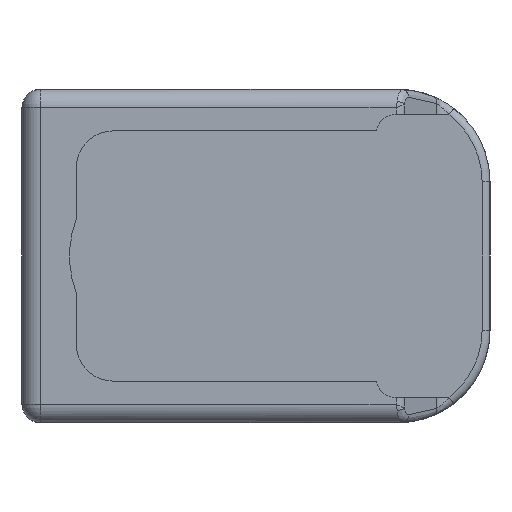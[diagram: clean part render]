
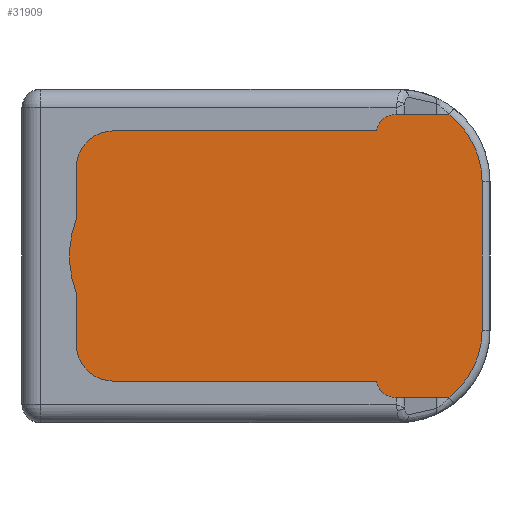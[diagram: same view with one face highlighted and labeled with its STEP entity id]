
A CAD part, left-side view. The second image highlights one B-rep face of the part: STEP entity #31909.
In plain terms, the highlighted planar face has unit normal (-1, 0, 0).
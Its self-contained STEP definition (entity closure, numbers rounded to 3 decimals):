
#430 = DIRECTION ( 'NONE',  ( -1., 0., 0. ) ) ;
#686 = CARTESIAN_POINT ( 'NONE',  ( -329.6, -59.648, 30.5 ) ) ;
#1399 = EDGE_CURVE ( 'NONE', #67137, #32455, #17705, .T. ) ;
#2488 = CARTESIAN_POINT ( 'NONE',  ( -329.6, 20.8, 7.901 ) ) ;
#3057 = LINE ( 'NONE', #36744, #74086 ) ;
#4092 = EDGE_CURVE ( 'NONE', #47760, #67137, #26237, .T. ) ;
#4124 = VERTEX_POINT ( 'NONE', #72978 ) ;
#4677 = VECTOR ( 'NONE', #46253, 1000. ) ;
#4864 = DIRECTION ( 'NONE',  ( 0., 0., 1. ) ) ;
#5939 = EDGE_LOOP ( 'NONE', ( #35541, #37194, #59270, #45295, #56395, #15604, #26791, #78368, #46803, #17629, #66657, #72200 ) ) ;
#8618 = CIRCLE ( 'NONE', #58756, 22.25 ) ;
#10387 = AXIS2_PLACEMENT_3D ( 'NONE', #27511, #14393, #41003 ) ;
#11647 = DIRECTION ( 'NONE',  ( 1., 0., 0. ) ) ;
#12157 = DIRECTION ( 'NONE',  ( 0., 0., 1. ) ) ;
#13181 = DIRECTION ( 'NONE',  ( 1., 0., 0. ) ) ;
#13382 = VERTEX_POINT ( 'NONE', #19253 ) ;
#14393 = DIRECTION ( 'NONE',  ( -1., 0., 0. ) ) ;
#14477 = DIRECTION ( 'NONE',  ( 0., 0., -1. ) ) ;
#14497 = CARTESIAN_POINT ( 'NONE',  ( -329.6, -48.5, -16. ) ) ;
#15604 = ORIENTED_EDGE ( 'NONE', *, *, #4092, .T. ) ;
#16610 = AXIS2_PLACEMENT_3D ( 'NONE', #46311, #430, #20575 ) ;
#16650 = DIRECTION ( 'NONE',  ( 0., 0., 1. ) ) ;
#17629 = ORIENTED_EDGE ( 'NONE', *, *, #46980, .T. ) ;
#17705 = CIRCLE ( 'NONE', #66526, 18.3 ) ;
#17840 = CARTESIAN_POINT ( 'NONE',  ( -329.6, 20.8, 30.5 ) ) ;
#17949 = CIRCLE ( 'NONE', #27780, 9.75 ) ;
#18346 = DIRECTION ( 'NONE',  ( 0., 0., -1. ) ) ;
#19253 = CARTESIAN_POINT ( 'NONE',  ( -329.6, 11.05, -30.5 ) ) ;
#20143 = CIRCLE ( 'NONE', #10387, 9.75 ) ;
#20575 = DIRECTION ( 'NONE',  ( 0., 0., -1. ) ) ;
#20595 = DIRECTION ( 'NONE',  ( -1., 0., 0. ) ) ;
#22272 = DIRECTION ( 'NONE',  ( 0., 0., -1. ) ) ;
#25347 = PLANE ( 'NONE',  #45332 ) ;
#26237 = LINE ( 'NONE', #53224, #4677 ) ;
#26791 = ORIENTED_EDGE ( 'NONE', *, *, #1399, .T. ) ;
#27511 = CARTESIAN_POINT ( 'NONE',  ( -329.6, 11.05, 20.75 ) ) ;
#27780 = AXIS2_PLACEMENT_3D ( 'NONE', #64676, #13181, #4864 ) ;
#27981 = VECTOR ( 'NONE', #14477, 1000. ) ;
#28457 = LINE ( 'NONE', #41502, #27981 ) ;
#29920 = VERTEX_POINT ( 'NONE', #57635 ) ;
#31909 = ADVANCED_FACE ( 'NONE', ( #77393 ), #25347, .T. ) ;
#32129 = CARTESIAN_POINT ( 'NONE',  ( -329.6, 0., 0. ) ) ;
#32455 = VERTEX_POINT ( 'NONE', #55487 ) ;
#32653 = LINE ( 'NONE', #79852, #37932 ) ;
#34987 = EDGE_CURVE ( 'NONE', #47248, #42632, #40094, .T. ) ;
#35541 = ORIENTED_EDGE ( 'NONE', *, *, #34987, .F. ) ;
#36364 = CARTESIAN_POINT ( 'NONE',  ( -329.6, 11.05, 30.5 ) ) ;
#36731 = CARTESIAN_POINT ( 'NONE',  ( -329.6, -59.648, -30.5 ) ) ;
#36744 = CARTESIAN_POINT ( 'NONE',  ( -329.6, 20.8, -30.5 ) ) ;
#37194 = ORIENTED_EDGE ( 'NONE', *, *, #57709, .F. ) ;
#37932 = VECTOR ( 'NONE', #52230, 1000. ) ;
#39055 = CARTESIAN_POINT ( 'NONE',  ( -329.6, -59.648, -30.512 ) ) ;
#40094 = LINE ( 'NONE', #85961, #56885 ) ;
#41003 = DIRECTION ( 'NONE',  ( 0., 0., -1. ) ) ;
#41502 = CARTESIAN_POINT ( 'NONE',  ( -329.6, -59.648, 27. ) ) ;
#42632 = VERTEX_POINT ( 'NONE', #45348 ) ;
#42745 = LINE ( 'NONE', #17840, #55196 ) ;
#43717 = VERTEX_POINT ( 'NONE', #74454 ) ;
#45295 = ORIENTED_EDGE ( 'NONE', *, *, #46257, .F. ) ;
#45332 = AXIS2_PLACEMENT_3D ( 'NONE', #63774, #78242, #18346 ) ;
#45348 = CARTESIAN_POINT ( 'NONE',  ( -329.6, 20.8, 20.75 ) ) ;
#45716 = VECTOR ( 'NONE', #12157, 1000. ) ;
#46253 = DIRECTION ( 'NONE',  ( 0., 0., -1. ) ) ;
#46257 = EDGE_CURVE ( 'NONE', #13382, #43717, #17949, .T. ) ;
#46311 = CARTESIAN_POINT ( 'NONE',  ( -329.6, -48.5, 16. ) ) ;
#46803 = ORIENTED_EDGE ( 'NONE', *, *, #77098, .T. ) ;
#46980 = EDGE_CURVE ( 'NONE', #29920, #81560, #28457, .T. ) ;
#47248 = VERTEX_POINT ( 'NONE', #2488 ) ;
#47760 = VERTEX_POINT ( 'NONE', #36731 ) ;
#50335 = VERTEX_POINT ( 'NONE', #36364 ) ;
#50644 = VERTEX_POINT ( 'NONE', #75164 ) ;
#50902 = EDGE_CURVE ( 'NONE', #50335, #42632, #20143, .T. ) ;
#50948 = CARTESIAN_POINT ( 'NONE',  ( -329.6, -66.8, 27. ) ) ;
#52230 = DIRECTION ( 'NONE',  ( 0., -1., 0. ) ) ;
#53224 = CARTESIAN_POINT ( 'NONE',  ( -329.6, -59.648, 27. ) ) ;
#53606 = EDGE_CURVE ( 'NONE', #50335, #81560, #42745, .T. ) ;
#55196 = VECTOR ( 'NONE', #57558, 1000. ) ;
#55487 = CARTESIAN_POINT ( 'NONE',  ( -329.6, -66.8, -16. ) ) ;
#56395 = ORIENTED_EDGE ( 'NONE', *, *, #79067, .T. ) ;
#56885 = VECTOR ( 'NONE', #74612, 1000. ) ;
#57558 = DIRECTION ( 'NONE',  ( 0., -1., 0. ) ) ;
#57635 = CARTESIAN_POINT ( 'NONE',  ( -329.6, -59.648, 30.512 ) ) ;
#57709 = EDGE_CURVE ( 'NONE', #50644, #47248, #8618, .T. ) ;
#58756 = AXIS2_PLACEMENT_3D ( 'NONE', #32129, #11647, #63997 ) ;
#59270 = ORIENTED_EDGE ( 'NONE', *, *, #69493, .F. ) ;
#62430 = EDGE_CURVE ( 'NONE', #32455, #4124, #71994, .T. ) ;
#63774 = CARTESIAN_POINT ( 'NONE',  ( -329.6, -68.5, 27. ) ) ;
#63997 = DIRECTION ( 'NONE',  ( 0., -1., 0. ) ) ;
#64676 = CARTESIAN_POINT ( 'NONE',  ( -329.6, 11.05, -20.75 ) ) ;
#66526 = AXIS2_PLACEMENT_3D ( 'NONE', #14497, #20595, #22272 ) ;
#66657 = ORIENTED_EDGE ( 'NONE', *, *, #53606, .F. ) ;
#67137 = VERTEX_POINT ( 'NONE', #39055 ) ;
#69493 = EDGE_CURVE ( 'NONE', #43717, #50644, #3057, .T. ) ;
#69607 = CIRCLE ( 'NONE', #16610, 18.3 ) ;
#71994 = LINE ( 'NONE', #50948, #45716 ) ;
#72200 = ORIENTED_EDGE ( 'NONE', *, *, #50902, .T. ) ;
#72978 = CARTESIAN_POINT ( 'NONE',  ( -329.6, -66.8, 16. ) ) ;
#74086 = VECTOR ( 'NONE', #16650, 1000. ) ;
#74454 = CARTESIAN_POINT ( 'NONE',  ( -329.6, 20.8, -20.75 ) ) ;
#74612 = DIRECTION ( 'NONE',  ( 0., 0., 1. ) ) ;
#75164 = CARTESIAN_POINT ( 'NONE',  ( -329.6, 20.8, -7.901 ) ) ;
#77098 = EDGE_CURVE ( 'NONE', #4124, #29920, #69607, .T. ) ;
#77393 = FACE_OUTER_BOUND ( 'NONE', #5939, .T. ) ;
#78242 = DIRECTION ( 'NONE',  ( -1., 0., 0. ) ) ;
#78368 = ORIENTED_EDGE ( 'NONE', *, *, #62430, .T. ) ;
#79067 = EDGE_CURVE ( 'NONE', #13382, #47760, #32653, .T. ) ;
#79852 = CARTESIAN_POINT ( 'NONE',  ( -329.6, 20.8, -30.5 ) ) ;
#81560 = VERTEX_POINT ( 'NONE', #686 ) ;
#85961 = CARTESIAN_POINT ( 'NONE',  ( -329.6, 20.8, -30.5 ) ) ;
